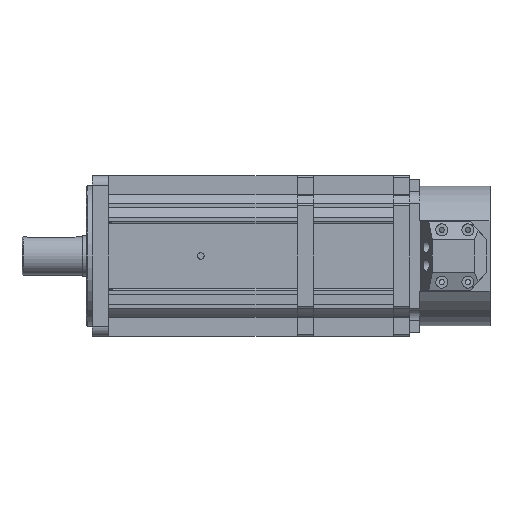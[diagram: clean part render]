
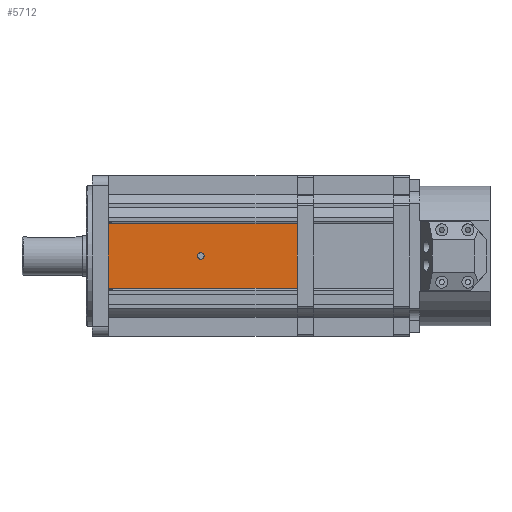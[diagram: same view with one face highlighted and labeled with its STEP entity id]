
A CAD part, front view. The second image highlights one B-rep face of the part: STEP entity #5712.
In plain terms, the highlighted planar face has unit normal (0, -1, 0).
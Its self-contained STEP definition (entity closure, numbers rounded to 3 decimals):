
#189 = AXIS2_PLACEMENT_3D ( 'NONE', #12240, #11826, #11959 ) ;
#654 = ORIENTED_EDGE ( 'NONE', *, *, #3038, .F. ) ;
#1330 = ORIENTED_EDGE ( 'NONE', *, *, #3093, .F. ) ;
#2735 = EDGE_CURVE ( 'NONE', #10159, #13006, #5497, .T. ) ;
#2874 = VERTEX_POINT ( 'NONE', #8957 ) ;
#3038 = EDGE_CURVE ( 'NONE', #10159, #12564, #4743, .T. ) ;
#3093 = EDGE_CURVE ( 'NONE', #2874, #2874, #4223, .T. ) ;
#3113 = DIRECTION ( 'NONE',  ( 0., 0., 1. ) ) ;
#3130 = CARTESIAN_POINT ( 'NONE',  ( 137., -40., 26. ) ) ;
#3145 = EDGE_CURVE ( 'NONE', #12564, #14789, #4036, .T. ) ;
#4023 = VECTOR ( 'NONE', #9359, 1000. ) ;
#4036 = LINE ( 'NONE', #10155, #4023 ) ;
#4204 = DIRECTION ( 'NONE',  ( -1., 0., 0. ) ) ;
#4223 = CIRCLE ( 'NONE', #189, 1.65 ) ;
#4591 = VECTOR ( 'NONE', #9190, 1000. ) ;
#4743 = LINE ( 'NONE', #9249, #4591 ) ;
#4763 = VECTOR ( 'NONE', #4204, 1000. ) ;
#5497 = LINE ( 'NONE', #3130, #5543 ) ;
#5543 = VECTOR ( 'NONE', #3113, 1000. ) ;
#5712 = ADVANCED_FACE ( 'NONE', ( #11680, #11733 ), #6414, .F. ) ;
#6390 = DIRECTION ( 'NONE',  ( 0., 0., -1. ) ) ;
#6410 = DIRECTION ( 'NONE',  ( 0., 1., 0. ) ) ;
#6414 = PLANE ( 'NONE',  #12060 ) ;
#6502 = CARTESIAN_POINT ( 'NONE',  ( 43., -40., 26. ) ) ;
#7085 = CARTESIAN_POINT ( 'NONE',  ( 43., -40., 16. ) ) ;
#7507 = CARTESIAN_POINT ( 'NONE',  ( 137., -40., 16. ) ) ;
#8957 = CARTESIAN_POINT ( 'NONE',  ( 89., -40., 1.65 ) ) ;
#9190 = DIRECTION ( 'NONE',  ( -1., 0., 0. ) ) ;
#9249 = CARTESIAN_POINT ( 'NONE',  ( 137., -40., -16. ) ) ;
#9359 = DIRECTION ( 'NONE',  ( 0., 0., 1. ) ) ;
#9408 = CARTESIAN_POINT ( 'NONE',  ( 43., -40., -16. ) ) ;
#10055 = CARTESIAN_POINT ( 'NONE',  ( 137., -40., -16. ) ) ;
#10155 = CARTESIAN_POINT ( 'NONE',  ( 43., -40., 26. ) ) ;
#10159 = VERTEX_POINT ( 'NONE', #10055 ) ;
#11680 = FACE_BOUND ( 'NONE', #16091, .T. ) ;
#11733 = FACE_OUTER_BOUND ( 'NONE', #12589, .T. ) ;
#11826 = DIRECTION ( 'NONE',  ( 0., -1., 0. ) ) ;
#11959 = DIRECTION ( 'NONE',  ( 0., 0., 1. ) ) ;
#12060 = AXIS2_PLACEMENT_3D ( 'NONE', #6502, #6410, #6390 ) ;
#12066 = LINE ( 'NONE', #7507, #4763 ) ;
#12108 = ORIENTED_EDGE ( 'NONE', *, *, #3145, .F. ) ;
#12240 = CARTESIAN_POINT ( 'NONE',  ( 89., -40., 0. ) ) ;
#12564 = VERTEX_POINT ( 'NONE', #9408 ) ;
#12589 = EDGE_LOOP ( 'NONE', ( #12108, #654, #13234, #14028 ) ) ;
#13006 = VERTEX_POINT ( 'NONE', #15250 ) ;
#13234 = ORIENTED_EDGE ( 'NONE', *, *, #2735, .T. ) ;
#14028 = ORIENTED_EDGE ( 'NONE', *, *, #16370, .T. ) ;
#14789 = VERTEX_POINT ( 'NONE', #7085 ) ;
#15250 = CARTESIAN_POINT ( 'NONE',  ( 137., -40., 16. ) ) ;
#16091 = EDGE_LOOP ( 'NONE', ( #1330 ) ) ;
#16370 = EDGE_CURVE ( 'NONE', #13006, #14789, #12066, .T. ) ;
